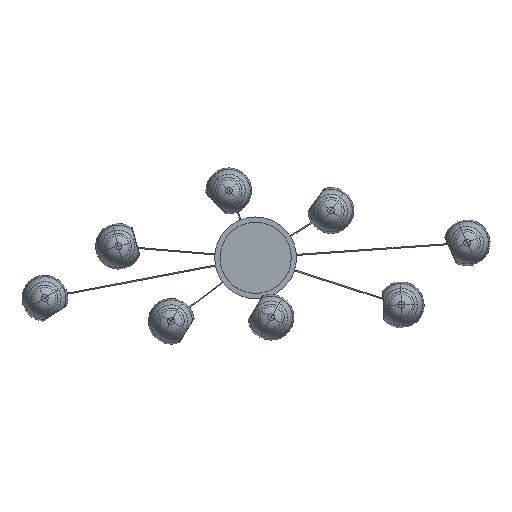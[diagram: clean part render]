
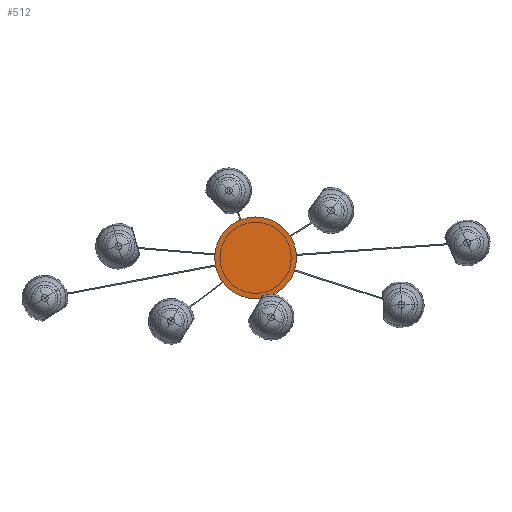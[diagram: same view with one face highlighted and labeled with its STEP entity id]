
A CAD part, front view. The second image highlights one B-rep face of the part: STEP entity #512.
In plain terms, the highlighted planar face has unit normal (0, -1, 0).
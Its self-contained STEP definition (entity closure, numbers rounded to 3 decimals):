
#171 = EDGE_LOOP ( 'NONE', ( #6243, #9287 ) ) ;
#510 = DIRECTION ( 'NONE',  ( 0., -1., 0. ) ) ;
#512 = ADVANCED_FACE ( 'NONE', ( #7321 ), #4745, .T. ) ;
#1079 = EDGE_CURVE ( 'NONE', #17107, #2852, #8020, .T. ) ;
#1937 = CARTESIAN_POINT ( 'NONE',  ( 0., -15., 0. ) ) ;
#2852 = VERTEX_POINT ( 'NONE', #6236 ) ;
#3040 = DIRECTION ( 'NONE',  ( 0., 0., -1. ) ) ;
#4745 = PLANE ( 'NONE',  #10884 ) ;
#6236 = CARTESIAN_POINT ( 'NONE',  ( 0., -15., 155. ) ) ;
#6243 = ORIENTED_EDGE ( 'NONE', *, *, #1079, .T. ) ;
#7321 = FACE_OUTER_BOUND ( 'NONE', #171, .T. ) ;
#7385 = DIRECTION ( 'NONE',  ( 0., -1., 0. ) ) ;
#8020 = CIRCLE ( 'NONE', #12884, 155. ) ;
#8030 = CIRCLE ( 'NONE', #8599, 155. ) ;
#8599 = AXIS2_PLACEMENT_3D ( 'NONE', #1937, #7385, #8824 ) ;
#8824 = DIRECTION ( 'NONE',  ( 0., 0., -1. ) ) ;
#9287 = ORIENTED_EDGE ( 'NONE', *, *, #14965, .T. ) ;
#9857 = CARTESIAN_POINT ( 'NONE',  ( 0., -15., -155. ) ) ;
#10797 = CARTESIAN_POINT ( 'NONE',  ( 0., -15., 0. ) ) ;
#10884 = AXIS2_PLACEMENT_3D ( 'NONE', #9857, #510, #3040 ) ;
#12051 = DIRECTION ( 'NONE',  ( 0., 0., -1. ) ) ;
#12884 = AXIS2_PLACEMENT_3D ( 'NONE', #10797, #14914, #12051 ) ;
#13005 = CARTESIAN_POINT ( 'NONE',  ( 0., -15., -155. ) ) ;
#14914 = DIRECTION ( 'NONE',  ( 0., -1., 0. ) ) ;
#14965 = EDGE_CURVE ( 'NONE', #2852, #17107, #8030, .T. ) ;
#17107 = VERTEX_POINT ( 'NONE', #13005 ) ;
